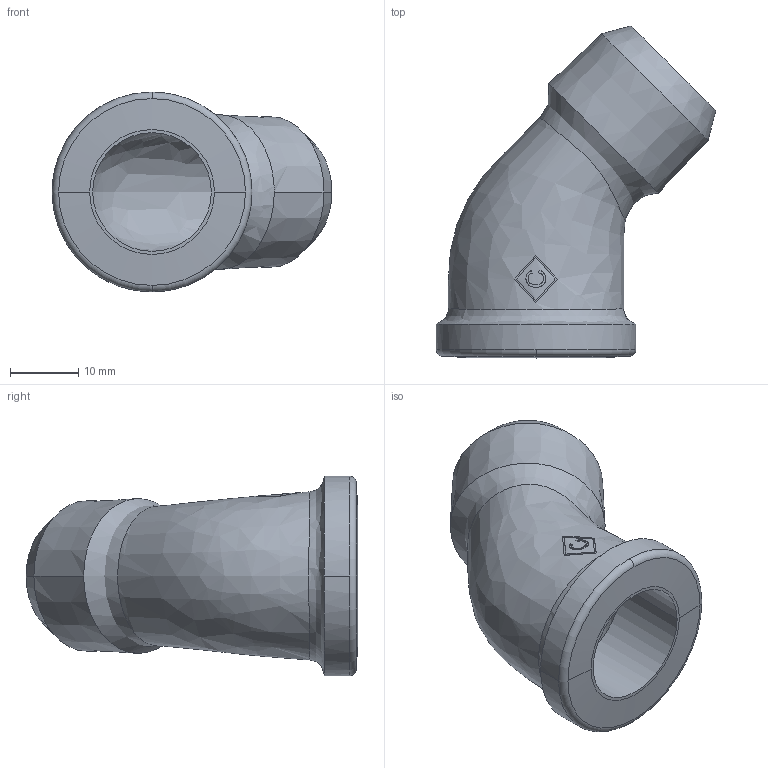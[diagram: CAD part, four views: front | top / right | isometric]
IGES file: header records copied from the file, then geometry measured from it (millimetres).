
Global section: file name: No Iges File Name specified; native system: AutoDesk Inventor R12.0; preprocessor: AutoDesk Inventor Iges Exporter R12.0; date: 20090916.111339; units: millimetre
Bounding box: 41.03 x 48.67 x 29.3 mm (x, y, z)
Volume: 10267.3 mm3; surface area: 6816.6 mm2
Topology: 1 solids, 1 shells, 46 faces, 122 edges, 82 vertices
Faces by surface type: bspline 17, plane 15, cone 6, revolution 4, cylinder 2, torus 2
